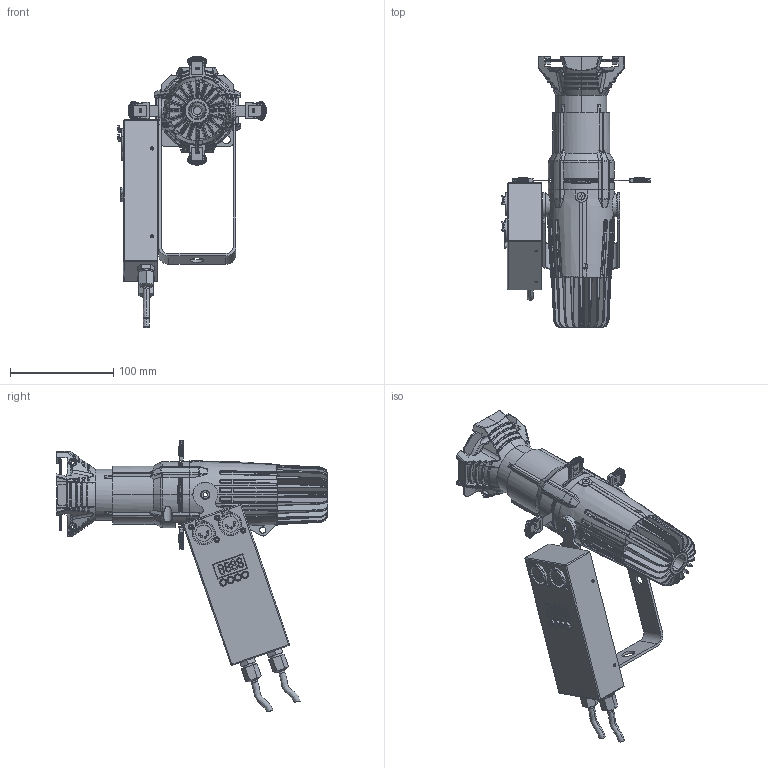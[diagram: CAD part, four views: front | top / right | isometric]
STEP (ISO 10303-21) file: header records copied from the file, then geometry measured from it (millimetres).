
FILE_DESCRIPTION((''),'2;1');
FILE_NAME('20-SM_ASM_104_ASM_ASM','2025-03-28T13:19:45',('ALY'),(''),'CREO PARAMETRIC BY PTC INC, 2022164','CREO PARAMETRIC BY PTC INC, 2022164','');
FILE_SCHEMA(('AUTOMOTIVE_DESIGN { 1 0 10303 214 1 1 1 1 }'));
Products named in the file (24): QIANG-B_65_2; QIANG-A_36_2; ZHONGGAI-A_36_5; ZHONGGAI-B_35_12; SPJ-20_7; ASM0001_ASM_8_ASM_8_ASM; HOUGAI-A_76_3; HOUGAI-B_44_2; QG-D_5; GS-25_6; QP-M_10; SB-S_1; YAB-M_20; GS-24_ASM_34_ASM; TS-M_20; DK-D_10; SK-145_17; XH-S_1; XSB-50_10; DY-2_3; XK-13_2; TS-32_ASM_79_ASM; 0220-SM_ASM_104_ASM_90_ASM; 20-SM_ASM_104_ASM_ASM
Assembly tree (32 placements, depth 4):
  20-SM_ASM_104_ASM_ASM
    0220-SM_ASM_104_ASM_90_ASM
      ASM0001_ASM_8_ASM_8_ASM
        QIANG-B_65_2
        QIANG-A_36_2
        ZHONGGAI-A_36_5
        ZHONGGAI-B_35_12
        SPJ-20_7
      HOUGAI-A_76_3
      HOUGAI-B_44_2
      GS-24_ASM_34_ASM
        QG-D_5  x2
        GS-25_6
        QP-M_10  x4
        SB-S_1  x4
        YAB-M_20
      TS-32_ASM_79_ASM
        TS-M_20
        DK-D_10
        SK-145_17
        XH-S_1  x2
        XSB-50_10
        DY-2_3
        XK-13_2  x2
Bounding box: 143.91 x 263.17 x 262.8 mm (x, y, z)
Volume: 407810.7 mm3; surface area: 321937.6 mm2
Topology: 28 solids, 28 shells, 7422 faces, 19560 edges, 12116 vertices
Faces by surface type: cylinder 1956, bspline 1895, plane 1718, torus 1090, cone 441, sphere 206, revolution 67, extrusion 49
Entity records: 250225 total; most frequent: CARTESIAN_POINT 135152, ORIENTED_EDGE 26758, DIRECTION 19692, EDGE_CURVE 13379, VERTEX_POINT 8598, AXIS2_PLACEMENT_3D 7545, B_SPLINE_CURVE_WITH_KNOTS 5260, EDGE_LOOP 5113
